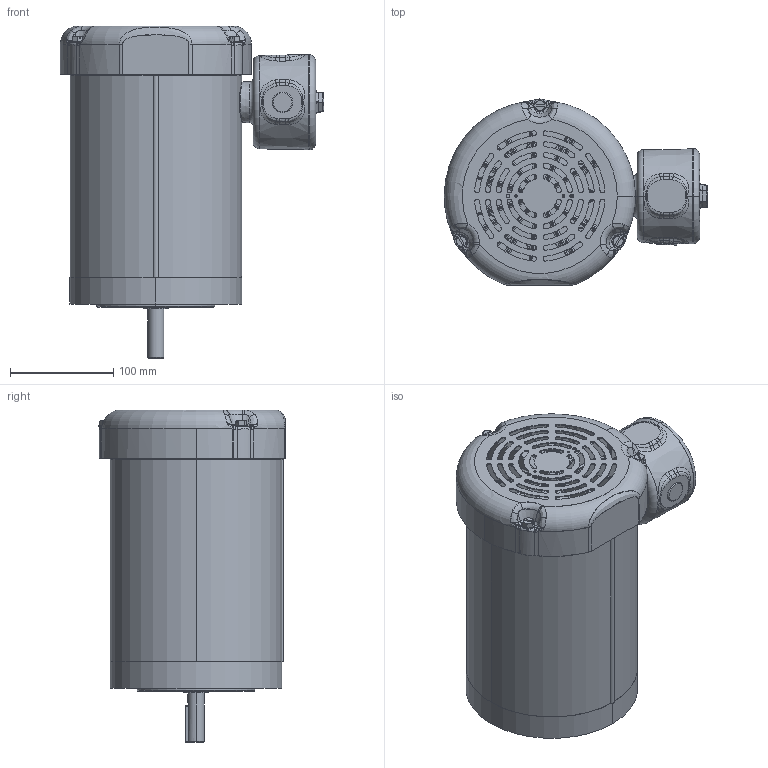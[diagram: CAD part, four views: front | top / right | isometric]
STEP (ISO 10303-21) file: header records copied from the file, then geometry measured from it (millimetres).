
FILE_DESCRIPTION (( 'STEP AP203' ), '1' );
FILE_NAME ('028943-775_RevC.STEP', '2016-07-23T14:49:25', ( 'RBC' ), ( 'RBC' ), 'SwSTEP 2.0', 'SolidWorks 2015', '' );
FILE_SCHEMA (( 'CONFIG_CONTROL_DESIGN' ));
Length unit declared in the file: inch
Products named in the file (1): 028943-775_RevC
Bounding box: 255.71 x 180.59 x 322.22 mm (x, y, z)
Volume: 958123.4 mm3; surface area: 653674.4 mm2
Topology: 28 solids, 28 shells, 3125 faces, 7495 edges, 4417 vertices
Faces by surface type: bspline 995, cylinder 874, plane 589, cone 345, torus 308, sphere 14
Entity records: 131793 total; most frequent: CARTESIAN_POINT 67004, ORIENTED_EDGE 14758, DIRECTION 12128, EDGE_CURVE 7379, AXIS2_PLACEMENT_3D 5152, VERTEX_POINT 4417, EDGE_LOOP 3356, ADVANCED_FACE 3125
